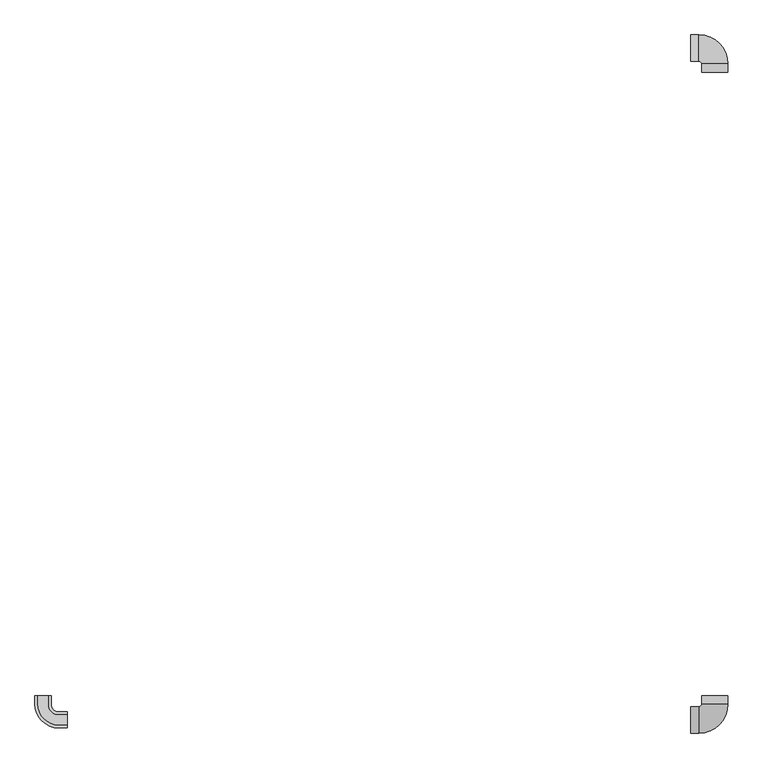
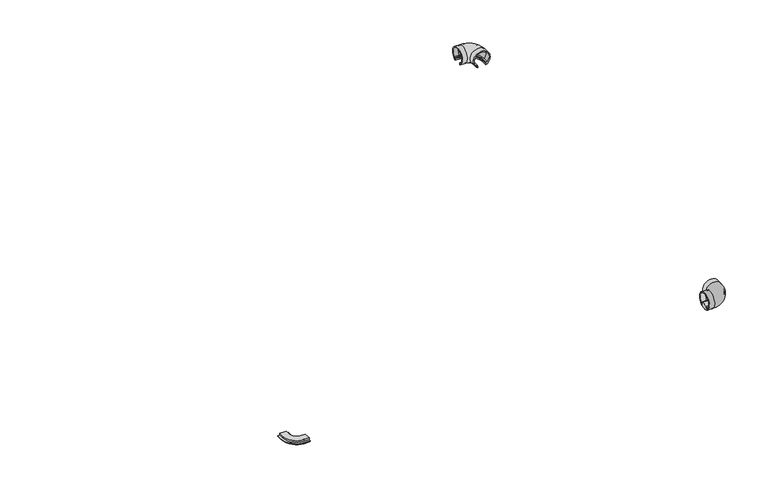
"""IFC4 building model written with IfcOpenShell, lengths in millimetres: light fixture geometry."""

from ifc_helpers import new_model, si_unit, point, frame, origin, place, context, project, spatial, polyline, circle_curve, ellipse_curve, trimmed, source, transform, mapped, element, save
from ifc_brep_helpers import plane_surface, cylinder_surface, revolved_surface, advanced_brep


def light_fixture_460ac115(model_context):
    return source(origin(), model_context, "Body", "AdvancedBrep", [
        advanced_brep(
        [(1284.2532014, 1110.5, 52.9333396), (1284.2532014, 1110.5, 57.259212), (1282.3354474, 1110.5, 57.259212), (1282.3354474, 1110.5, 55.8288843), (1280.3854474, 1110.5, 57.2440748), (1280.3854474, 1110.5, 59.244074), (1283.3354474, 1110.5, 59.244074), (1283.3354474, 1110.5, 60.744074), (1278.725222, 1110.5, 60.744074), (1313.2811808, 1110.5, 60.744074), (1308.6709554, 1110.5, 60.744074), (1308.6709554, 1110.5, 59.244074), (1311.6209554, 1110.5, 59.244074), (1311.6209554, 1110.5, 57.2440748), (1309.6709554, 1110.5, 55.8288843), (1309.6709554, 1110.5, 57.259212), (1307.7532014, 1110.5, 57.259212), (1307.7532014, 1110.5, 52.9333396), (1250.5032014, 1144.25, 52.9333396), (1250.5032014, 1167.75, 52.9333396), (1250.5032014, 1167.75, 57.259212), (1250.5032014, 1169.667754, 57.259212), (1250.5032014, 1169.667754, 55.8288843), (1250.5032014, 1171.617754, 57.2440748), (1250.5032014, 1171.617754, 59.244074), (1250.5032014, 1168.667754, 59.244074), (1250.5032014, 1168.667754, 60.744074), (1250.5032014, 1173.2779794, 60.744074), (1250.5032014, 1138.7220206, 60.744074), (1250.5032014, 1143.332246, 60.744074), (1250.5032014, 1143.332246, 59.244074), (1250.5032014, 1140.382246, 59.244074), (1250.5032014, 1140.382246, 57.2440748), (1250.5032014, 1142.332246, 55.8288843), (1250.5032014, 1142.332246, 57.259212), (1250.5032014, 1144.25, 57.259212), (1307.7532014, 1126.0, 52.9333396), (1284.2532014, 1126.0, 52.9333396), (1307.7532014, 1126.0, 57.259212), (1309.6709554, 1126.0, 57.259212), (1266.0032014, 1169.667754, 57.259212), (1266.0032014, 1167.75, 57.259212), (1309.6709554, 1126.0, 55.8288843), (1311.6209554, 1126.0, 57.2440748), (1311.6209554, 1126.0, 59.244074), (1308.6709554, 1126.0, 59.244074), (1266.0032014, 1168.667754, 59.244074), (1266.0032014, 1171.617754, 59.244074), (1308.6709554, 1126.0, 60.744074), (1313.2811808, 1126.0, 60.744074), (1266.0032014, 1173.2779794, 60.744074), (1266.0032014, 1168.667754, 60.744074), (1278.725222, 1126.0, 60.744074), (1283.3354474, 1126.0, 60.744074), (1266.0032014, 1143.332246, 60.744074), (1266.0032014, 1138.7220206, 60.744074), (1283.3354474, 1126.0, 59.244074), (1280.3854474, 1126.0, 59.244074), (1266.0032014, 1140.382246, 59.244074), (1266.0032014, 1143.332246, 59.244074), (1280.3854474, 1126.0, 57.2440748), (1282.3354474, 1126.0, 55.8288843), (1282.3354474, 1126.0, 57.259212), (1284.2532014, 1126.0, 57.259212), (1266.0032014, 1144.25, 57.259212), (1266.0032014, 1142.332246, 57.259212), (1266.0032014, 1144.25, 52.9333396), (1266.0032014, 1167.75, 52.9333396), (1266.0032014, 1169.667754, 55.8288843), (1266.0032014, 1171.617754, 57.2440748), (1266.0032014, 1140.382246, 57.2440748), (1266.0032014, 1142.332246, 55.8288843)],
        [
            (0, 1),
            (1, 2),
            (2, 3),
            (3, 4),
            (4, 5),
            (5, 6),
            (6, 7),
            (7, 8),
            (8, 9, circle_curve(frame((1296.0032014, 1110.5, 75.0), z_axis=(0.0, 1.0, 0.0), x_axis=(-1.0, 0.0, 0.0)), 22.4)),
            (9, 10),
            (10, 11),
            (11, 12),
            (12, 13),
            (13, 14),
            (14, 15),
            (15, 16),
            (16, 17),
            (17, 0, circle_curve(frame((1296.0032014, 1110.5, 75.0), z_axis=(0.0, -1.0, 0.0), x_axis=(-1.0, 0.0, 0.0)), 25.0)),
            (18, 19, circle_curve(frame((1250.5032014, 1156.0, 75.0), z_axis=(-1.0, 0.0, 0.0), x_axis=(0.0, -1.0, 0.0)), 25.0)),
            (19, 20),
            (20, 21),
            (21, 22),
            (22, 23),
            (23, 24),
            (24, 25),
            (25, 26),
            (26, 27),
            (27, 28, circle_curve(frame((1250.5032014, 1156.0, 75.0), z_axis=(1.0, 0.0, 0.0), x_axis=(0.0, -1.0, 0.0)), 22.4)),
            (28, 29),
            (29, 30),
            (30, 31),
            (31, 32),
            (32, 33),
            (33, 34),
            (34, 35),
            (35, 18),
            (17, 36),
            (36, 37, circle_curve(frame((1296.0032014, 1126.0, 75.0), z_axis=(0.0, -1.0, 0.0), x_axis=(-1.0, 0.0, 0.0)), 25.0)),
            (37, 0),
            (16, 38),
            (38, 36),
            (15, 39),
            (39, 40, circle_curve(frame((1266.0032014, 1126.0, 57.259212), z_axis=(0.0, 0.0, 1.0), x_axis=(1.0, 0.0, 0.0)), 43.667754)),
            (40, 21),
            (20, 41),
            (41, 38, circle_curve(frame((1266.0032014, 1126.0, 57.259212), z_axis=(0.0, 0.0, -1.0), x_axis=(1.0, 0.0, 0.0)), 41.75)),
            (14, 42),
            (42, 39),
            (13, 43),
            (43, 42),
            (12, 44),
            (44, 43),
            (11, 45),
            (45, 46, circle_curve(frame((1266.0032014, 1126.0, 59.244074), z_axis=(0.0, 0.0, 1.0), x_axis=(1.0, 0.0, 0.0)), 42.667754)),
            (46, 25),
            (24, 47),
            (47, 44, circle_curve(frame((1266.0032014, 1126.0, 59.244074), z_axis=(0.0, 0.0, -1.0), x_axis=(1.0, 0.0, 0.0)), 45.617754)),
            (10, 48),
            (48, 45),
            (9, 49),
            (49, 50, circle_curve(frame((1266.0032014, 1126.0, 60.744074), z_axis=(0.0, 0.0, 1.0), x_axis=(1.0, 0.0, 0.0)), 47.2779794)),
            (50, 27),
            (26, 51),
            (51, 48, circle_curve(frame((1266.0032014, 1126.0, 60.744074), z_axis=(0.0, 0.0, -1.0), x_axis=(1.0, 0.0, 0.0)), 42.667754)),
            (8, 52),
            (52, 49, circle_curve(frame((1296.0032014, 1126.0, 75.0), z_axis=(0.0, 1.0, 0.0), x_axis=(-1.0, 0.0, 0.0)), 22.4)),
            (7, 53),
            (53, 54, circle_curve(frame((1266.0032014, 1126.0, 60.744074), z_axis=(0.0, 0.0, 1.0), x_axis=(1.0, 0.0, 0.0)), 17.332246)),
            (54, 29),
            (28, 55),
            (55, 52, circle_curve(frame((1266.0032014, 1126.0, 60.744074), z_axis=(0.0, 0.0, -1.0), x_axis=(1.0, 0.0, 0.0)), 12.7220206)),
            (6, 56),
            (56, 53),
            (5, 57),
            (57, 58, circle_curve(frame((1266.0032014, 1126.0, 59.244074), z_axis=(0.0, 0.0, 1.0), x_axis=(1.0, 0.0, 0.0)), 14.382246)),
            (58, 31),
            (30, 59),
            (59, 56, circle_curve(frame((1266.0032014, 1126.0, 59.244074), z_axis=(0.0, 0.0, -1.0), x_axis=(1.0, 0.0, 0.0)), 17.332246)),
            (4, 60),
            (60, 57),
            (3, 61),
            (61, 60),
            (2, 62),
            (62, 61),
            (1, 63),
            (63, 64, circle_curve(frame((1266.0032014, 1126.0, 57.259212), z_axis=(0.0, 0.0, 1.0), x_axis=(1.0, 0.0, 0.0)), 18.25)),
            (64, 35),
            (34, 65),
            (65, 62, circle_curve(frame((1266.0032014, 1126.0, 57.259212), z_axis=(0.0, 0.0, -1.0), x_axis=(1.0, 0.0, 0.0)), 16.332246)),
            (37, 63),
            (66, 37, circle_curve(frame((1266.0032014, 1126.0, 52.9333396), z_axis=(0.0, 0.0, -1.0), x_axis=(1.0, 0.0, 0.0)), 18.25)),
            (36, 67, circle_curve(frame((1266.0032014, 1126.0, 52.9333396), z_axis=(0.0, 0.0, 1.0), x_axis=(1.0, 0.0, 0.0)), 41.75)),
            (67, 66, circle_curve(frame((1266.0032014, 1156.0, 75.0), z_axis=(1.0, 0.0, 0.0), x_axis=(0.0, -1.0, 0.0)), 25.0)),
            (41, 67),
            (42, 68, circle_curve(frame((1266.0032014, 1126.0, 55.8288843), z_axis=(0.0, 0.0, 1.0), x_axis=(1.0, 0.0, 0.0)), 43.667754)),
            (68, 40),
            (43, 69, circle_curve(frame((1266.0032014, 1126.0, 57.2440748), z_axis=(0.0, 0.0, 1.0), x_axis=(1.0, 0.0, 0.0)), 45.617754)),
            (69, 68),
            (47, 69),
            (51, 46),
            (55, 50, circle_curve(frame((1266.0032014, 1156.0, 75.0), z_axis=(-1.0, 0.0, 0.0), x_axis=(0.0, -1.0, 0.0)), 22.4)),
            (59, 54),
            (60, 70, circle_curve(frame((1266.0032014, 1126.0, 57.2440748), z_axis=(0.0, 0.0, 1.0), x_axis=(1.0, 0.0, 0.0)), 14.382246)),
            (70, 58),
            (61, 71, circle_curve(frame((1266.0032014, 1126.0, 55.8288843), z_axis=(0.0, 0.0, 1.0), x_axis=(1.0, 0.0, 0.0)), 16.332246)),
            (71, 70),
            (65, 71),
            (66, 64),
            (67, 19),
            (18, 66),
            (68, 22),
            (69, 23),
            (70, 32),
            (71, 33),
        ],
        [
            plane_surface(frame((1296.0032014, 1110.5, 50.0), z_axis=(0.0, -1.0, 0.0), x_axis=(0.0, 0.0, 1.0))),
            plane_surface(frame((1250.5032014, 1156.0, 50.0), z_axis=(-1.0, 0.0, 0.0), x_axis=(0.0, 0.0, 1.0))),
            cylinder_surface(frame((1296.0032014, 1110.5, 75.0), z_axis=(0.0, -1.0, 0.0), x_axis=(-1.0, 0.0, 0.0)), 25.0),
            plane_surface(frame((1307.7532014, 1110.5, 57.259212), z_axis=(-1.0, 0.0, 0.0), x_axis=(0.0, 1.0, 0.0))),
            plane_surface(frame((1309.6709554, 1110.5, 57.259212), z_axis=(0.0, 0.0, 1.0), x_axis=(0.0, 1.0, 0.0))),
            plane_surface(frame((1309.6709554, 1110.5, 55.8288843), z_axis=(1.0, 0.0, 0.0), x_axis=(0.0, 1.0, 0.0))),
            plane_surface(frame((1311.6209554, 1110.5, 57.2440748), z_axis=(-0.5873593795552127, 0.0, 0.809326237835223), x_axis=(0.0, 1.0, 0.0))),
            plane_surface(frame((1311.6209554, 1110.5, 59.244074), z_axis=(-1.0, 0.0, 0.0), x_axis=(0.0, 1.0, 0.0))),
            plane_surface(frame((1308.6709554, 1110.5, 59.244074), z_axis=(0.0, 0.0, -1.0), x_axis=(0.0, 1.0, 0.0))),
            plane_surface(frame((1308.6709554, 1110.5, 60.744074), z_axis=(-1.0, 0.0, 0.0), x_axis=(0.0, 1.0, 0.0))),
            plane_surface(frame((1313.2811808, 1110.5, 60.744074), z_axis=(0.0, 0.0, 1.0), x_axis=(0.0, 1.0, 0.0))),
            revolved_surface(polyline([(1273.6032014, 1126.0, 75.0), (1273.6032014, 1110.5, 75.0)]), (1296.0032014, 1110.5, 75.0), (0.0, 1.0, 0.0)),
            plane_surface(frame((1283.3354474, 1110.5, 60.744074), z_axis=(0.0, 0.0, 1.0), x_axis=(0.0, 1.0, 0.0))),
            plane_surface(frame((1283.3354474, 1110.5, 59.244074), z_axis=(1.0, 0.0, 0.0), x_axis=(0.0, 1.0, 0.0))),
            plane_surface(frame((1280.3854474, 1110.5, 59.244074), z_axis=(0.0, 0.0, -1.0), x_axis=(0.0, 1.0, 0.0))),
            plane_surface(frame((1280.3854474, 1110.5, 57.2440748), z_axis=(1.0, 0.0, 0.0), x_axis=(0.0, 1.0, 0.0))),
            plane_surface(frame((1282.3354474, 1110.5, 55.8288843), z_axis=(0.5873593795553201, 0.0, 0.8093262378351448), x_axis=(0.0, 1.0, 0.0))),
            plane_surface(frame((1282.3354474, 1110.5, 57.259212), z_axis=(-1.0, 0.0, 0.0), x_axis=(0.0, 1.0, 0.0))),
            plane_surface(frame((1284.2532014, 1110.5, 57.259212), z_axis=(0.0, 0.0, 1.0), x_axis=(0.0, 1.0, 0.0))),
            plane_surface(frame((1284.2532014, 1110.5, 52.9333396), z_axis=(1.0, 0.0, 0.0), x_axis=(0.0, 1.0, 0.0))),
            revolved_surface(trimmed(ellipse_curve(frame((1296.0032014, 1126.0, 75.0), z_axis=(0.0, -1.0, 0.0), x_axis=(-1.0, 0.0, 0.0)), 25.0, 25.0), [point((1307.7532014, 1126.0, 52.9333396))], [point((1284.2532014, 1126.0, 52.9333396))], True, "CARTESIAN"), (1266.0032014, 1126.0, 50.0), (0.0, 0.0, 1.0)),
            revolved_surface(polyline([(1307.7532014, 1126.0, 57.259212), (1307.7532014, 1126.0, 52.9333396)]), (1266.0032014, 1126.0, 50.0), (0.0, 0.0, 1.0)),
            cylinder_surface(frame((1266.0032014, 1126.0, 50.0), z_axis=(0.0, 0.0, 1.0), x_axis=(1.0, 0.0, 0.0)), 43.667754),
            revolved_surface(polyline([(1311.6209554, 1126.0, 57.2440748), (1309.6709554, 1126.0, 55.8288843)]), (1266.0032014, 1126.0, 50.0), (0.0, 0.0, 1.0)),
            revolved_surface(polyline([(1311.6209554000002, 1126.0, 59.244074), (1311.6209554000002, 1126.0, 57.2440748)]), (1266.0032014, 1126.0, 50.0), (0.0, 0.0, 1.0)),
            revolved_surface(polyline([(1308.6709554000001, 1126.0, 60.744074), (1308.6709554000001, 1126.0, 59.244074)]), (1266.0032014, 1126.0, 50.0), (0.0, 0.0, 1.0)),
            revolved_surface(trimmed(ellipse_curve(frame((1296.0032014, 1126.0, 75.0), z_axis=(0.0, 1.0, 0.0), x_axis=(-1.0, 0.0, 0.0)), 22.4, 22.4), [point((1278.725222, 1126.0, 60.744074))], [point((1313.2811808, 1126.0, 60.744074))], True, "CARTESIAN"), (1266.0032014, 1126.0, 50.0), (0.0, 0.0, 1.0)),
            cylinder_surface(frame((1266.0032014, 1126.0, 50.0), z_axis=(0.0, 0.0, 1.0), x_axis=(1.0, 0.0, 0.0)), 17.332246),
            cylinder_surface(frame((1266.0032014, 1126.0, 50.0), z_axis=(0.0, 0.0, 1.0), x_axis=(1.0, 0.0, 0.0)), 14.382246),
            revolved_surface(polyline([(1282.3354474, 1126.0, 55.8288843), (1280.3854474, 1126.0, 57.2440748)]), (1266.0032014, 1126.0, 50.0), (0.0, 0.0, 1.0)),
            revolved_surface(polyline([(1282.3354474, 1126.0, 57.259212), (1282.3354474, 1126.0, 55.8288843)]), (1266.0032014, 1126.0, 50.0), (0.0, 0.0, 1.0)),
            cylinder_surface(frame((1266.0032014, 1126.0, 50.0), z_axis=(0.0, 0.0, 1.0), x_axis=(1.0, 0.0, 0.0)), 18.25),
            cylinder_surface(frame((1266.0032014, 1156.0, 75.0), z_axis=(1.0, 0.0, 0.0), x_axis=(0.0, -1.0, 0.0)), 25.0),
            plane_surface(frame((1266.0032014, 1167.75, 57.259212), z_axis=(0.0, -1.0, 0.0), x_axis=(-1.0, 0.0, 0.0))),
            plane_surface(frame((1266.0032014, 1169.667754, 55.8288843), z_axis=(0.0, 1.0, 0.0), x_axis=(-1.0, 0.0, 0.0))),
            plane_surface(frame((1266.0032014, 1171.617754, 57.2440748), z_axis=(0.0, -0.5873593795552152, 0.8093262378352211), x_axis=(-1.0, 0.0, 0.0))),
            plane_surface(frame((1266.0032014, 1171.617754, 59.244074), z_axis=(0.0, -1.0, 0.0), x_axis=(-1.0, 0.0, 0.0))),
            plane_surface(frame((1266.0032014, 1168.667754, 60.744074), z_axis=(0.0, -1.0, 0.0), x_axis=(-1.0, 0.0, 0.0))),
            revolved_surface(polyline([(1250.5032014, 1133.6, 75.0), (1266.0032014, 1133.6, 75.0)]), (1266.0032014, 1156.0, 75.0), (-1.0, 0.0, 0.0)),
            plane_surface(frame((1266.0032014, 1143.332246, 59.244074), z_axis=(0.0, 1.0, 0.0), x_axis=(-1.0, 0.0, 0.0))),
            plane_surface(frame((1266.0032014, 1140.382246, 57.2440748), z_axis=(0.0, 1.0, 0.0), x_axis=(-1.0, 0.0, 0.0))),
            plane_surface(frame((1266.0032014, 1142.332246, 55.8288843), z_axis=(0.0, 0.5873593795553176, 0.8093262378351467), x_axis=(-1.0, 0.0, 0.0))),
            plane_surface(frame((1266.0032014, 1142.332246, 57.259212), z_axis=(0.0, -1.0, 0.0), x_axis=(-1.0, 0.0, 0.0))),
            plane_surface(frame((1266.0032014, 1144.25, 52.9333396), z_axis=(0.0, 1.0, 0.0), x_axis=(-1.0, 0.0, 0.0))),
        ],
        [
            (0, [[1, 2, 3, 4, 5, 6, 7, 8, 9, 10, 11, 12, 13, 14, 15, 16, 17, 18]]),
            (1, [[19, 20, 21, 22, 23, 24, 25, 26, 27, 28, 29, 30, 31, 32, 33, 34, 35, 36]]),
            (2, [[-18, 37, 38, 39]]),
            (3, [[-17, 40, 41, -37]]),
            (4, [[-16, 42, 43, 44, -21, 45, 46, -40]]),
            (5, [[-15, 47, 48, -42]]),
            (6, [[-14, 49, 50, -47]]),
            (7, [[-13, 51, 52, -49]]),
            (8, [[-12, 53, 54, 55, -25, 56, 57, -51]]),
            (9, [[-11, 58, 59, -53]]),
            (10, [[-10, 60, 61, 62, -27, 63, 64, -58]]),
            (11, [[-9, 65, 66, -60]]),
            (12, [[-8, 67, 68, 69, -29, 70, 71, -65]]),
            (13, [[-7, 72, 73, -67]]),
            (14, [[-6, 74, 75, 76, -31, 77, 78, -72]]),
            (15, [[-5, 79, 80, -74]]),
            (16, [[-4, 81, 82, -79]]),
            (17, [[-3, 83, 84, -81]]),
            (18, [[-2, 85, 86, 87, -35, 88, 89, -83]]),
            (19, [[-1, -39, 90, -85]]),
            (20, [[91, -38, 92, 93]]),
            (21, [[-92, -41, -46, 94]]),
            (22, [[-43, -48, 95, 96]]),
            (23, [[-95, -50, 97, 98]]),
            (24, [[-97, -52, -57, 99]]),
            (25, [[-54, -59, -64, 100]]),
            (26, [[-61, -66, -71, 101]]),
            (27, [[-68, -73, -78, 102]]),
            (28, [[-75, -80, 103, 104]]),
            (29, [[-103, -82, 105, 106]]),
            (30, [[-105, -84, -89, 107]]),
            (31, [[-86, -90, -91, 108]]),
            (32, [[-93, 109, -19, 110]]),
            (33, [[-94, -45, -20, -109]]),
            (34, [[-96, 111, -22, -44]]),
            (35, [[-98, 112, -23, -111]]),
            (36, [[-99, -56, -24, -112]]),
            (37, [[-100, -63, -26, -55]]),
            (38, [[-101, -70, -28, -62]]),
            (39, [[-102, -77, -30, -69]]),
            (40, [[-104, 113, -32, -76]]),
            (41, [[-106, 114, -33, -113]]),
            (42, [[-107, -88, -34, -114]]),
            (43, [[-108, -110, -36, -87]]),
        ],
    ),
        advanced_brep(
        [(1250.5032014, -126.75, 52.9333396), (1250.5032014, -126.75, 57.259212), (1250.5032014, -130.304087, 57.259212), (1250.5032014, -130.304087, 58.785971), (1250.5032014, -124.5062575, 58.785971), (1250.5032014, -124.5062575, 64.4273482), (1250.5032014, -105.4937425, 64.4273482), (1250.5032014, -105.4937425, 58.785971), (1250.5032014, -99.695913, 58.785971), (1250.5032014, -99.695913, 57.259212), (1250.5032014, -103.25, 57.259212), (1250.5032014, -103.25, 52.9333396), (1307.7532014, -69.5, 52.9333396), (1284.2532014, -69.5, 52.9333396), (1284.2532014, -69.5, 57.259212), (1280.6991144, -69.5, 57.259212), (1280.6991144, -69.5, 58.785971), (1286.4969439, -69.5, 58.785971), (1286.4969439, -69.5, 64.4273482), (1305.5094589, -69.5, 64.4273482), (1305.5094589, -69.5, 58.785971), (1311.3072884, -69.5, 58.785971), (1311.3072884, -69.5, 57.259212), (1307.7532014, -69.5, 57.259212), (1266.0032014, -103.25, 52.9333396), (1266.0032014, -126.75, 52.9333396), (1266.0032014, -103.25, 57.259212), (1266.0032014, -99.695913, 57.259212), (1280.6991144, -85.0, 57.259212), (1284.2532014, -85.0, 57.259212), (1266.0032014, -99.695913, 58.785971), (1266.0032014, -105.4937425, 58.785971), (1286.4969439, -85.0, 58.785971), (1280.6991144, -85.0, 58.785971), (1266.0032014, -105.4937425, 64.4273482), (1266.0032014, -124.5062575, 64.4273482), (1305.5094589, -85.0, 64.4273482), (1286.4969439, -85.0, 64.4273482), (1266.0032014, -124.5062575, 58.785971), (1266.0032014, -130.304087, 58.785971), (1311.3072884, -85.0, 58.785971), (1305.5094589, -85.0, 58.785971), (1266.0032014, -130.304087, 57.259212), (1266.0032014, -126.75, 57.259212), (1307.7532014, -85.0, 57.259212), (1311.3072884, -85.0, 57.259212), (1307.7532014, -85.0, 52.9333396), (1284.2532014, -85.0, 52.9333396)],
        [
            (0, 1),
            (1, 2),
            (2, 3),
            (3, 4),
            (4, 5),
            (5, 6),
            (6, 7),
            (7, 8),
            (8, 9),
            (9, 10),
            (10, 11),
            (11, 0, circle_curve(frame((1250.5032014, -115.0, 75.0), z_axis=(-1.0, 0.0, 0.0), x_axis=(0.0, 1.0, 0.0)), 25.0)),
            (12, 13, circle_curve(frame((1296.0032014, -69.5, 75.0), z_axis=(0.0, 1.0, 0.0), x_axis=(-1.0, 0.0, 0.0)), 25.0)),
            (13, 14),
            (14, 15),
            (15, 16),
            (16, 17),
            (17, 18),
            (18, 19),
            (19, 20),
            (20, 21),
            (21, 22),
            (22, 23),
            (23, 12),
            (11, 24),
            (24, 25, circle_curve(frame((1266.0032014, -115.0, 75.0), z_axis=(-1.0, 0.0, 0.0), x_axis=(0.0, 1.0, 0.0)), 25.0)),
            (25, 0),
            (10, 26),
            (26, 24),
            (9, 27),
            (27, 28, circle_curve(frame((1266.0032014, -85.0, 57.259212), z_axis=(0.0, 0.0, 1.0), x_axis=(0.0, -1.0, 0.0)), 14.695913)),
            (28, 15),
            (14, 29),
            (29, 26, circle_curve(frame((1266.0032014, -85.0, 57.259212), z_axis=(0.0, 0.0, -1.0), x_axis=(0.0, -1.0, 0.0)), 18.25)),
            (8, 30),
            (30, 27),
            (7, 31),
            (31, 32, circle_curve(frame((1266.0032014, -85.0, 58.785971), z_axis=(0.0, 0.0, 1.0), x_axis=(0.0, -1.0, 0.0)), 20.4937425)),
            (32, 17),
            (16, 33),
            (33, 30, circle_curve(frame((1266.0032014, -85.0, 58.785971), z_axis=(0.0, 0.0, -1.0), x_axis=(0.0, -1.0, 0.0)), 14.695913)),
            (6, 34),
            (34, 31),
            (5, 35),
            (35, 36, circle_curve(frame((1266.0032014, -85.0, 64.4273482), z_axis=(0.0, 0.0, 1.0), x_axis=(0.0, -1.0, 0.0)), 39.5062575)),
            (36, 19),
            (18, 37),
            (37, 34, circle_curve(frame((1266.0032014, -85.0, 64.4273482), z_axis=(0.0, 0.0, -1.0), x_axis=(0.0, -1.0, 0.0)), 20.4937425)),
            (4, 38),
            (38, 35),
            (3, 39),
            (39, 40, circle_curve(frame((1266.0032014, -85.0, 58.785971), z_axis=(0.0, 0.0, 1.0), x_axis=(0.0, -1.0, 0.0)), 45.304087)),
            (40, 21),
            (20, 41),
            (41, 38, circle_curve(frame((1266.0032014, -85.0, 58.785971), z_axis=(0.0, 0.0, -1.0), x_axis=(0.0, -1.0, 0.0)), 39.5062575)),
            (2, 42),
            (42, 39),
            (1, 43),
            (43, 44, circle_curve(frame((1266.0032014, -85.0, 57.259212), z_axis=(0.0, 0.0, 1.0), x_axis=(0.0, -1.0, 0.0)), 41.75)),
            (44, 23),
            (22, 45),
            (45, 42, circle_curve(frame((1266.0032014, -85.0, 57.259212), z_axis=(0.0, 0.0, -1.0), x_axis=(0.0, -1.0, 0.0)), 45.304087)),
            (25, 43),
            (46, 25, circle_curve(frame((1266.0032014, -85.0, 52.9333396), z_axis=(0.0, 0.0, -1.0), x_axis=(0.0, -1.0, 0.0)), 41.75)),
            (24, 47, circle_curve(frame((1266.0032014, -85.0, 52.9333396), z_axis=(0.0, 0.0, 1.0), x_axis=(0.0, -1.0, 0.0)), 18.25)),
            (47, 46, circle_curve(frame((1296.0032014, -85.0, 75.0), z_axis=(0.0, -1.0, 0.0), x_axis=(-1.0, 0.0, 0.0)), 25.0)),
            (29, 47),
            (33, 28),
            (37, 32),
            (41, 36),
            (45, 40),
            (46, 44),
            (47, 13),
            (12, 46),
        ],
        [
            plane_surface(frame((1250.5032014, -115.0, 50.0), z_axis=(-1.0, 0.0, 0.0), x_axis=(0.0, 0.0, 1.0))),
            plane_surface(frame((1296.0032014, -69.5, 50.0), z_axis=(0.0, 1.0, 0.0), x_axis=(0.0, 0.0, 1.0))),
            cylinder_surface(frame((1250.5032014, -115.0, 75.0), z_axis=(-1.0, 0.0, 0.0), x_axis=(0.0, 1.0, 0.0)), 25.0),
            plane_surface(frame((1250.5032014, -103.25, 57.259212), z_axis=(0.0, 1.0, 0.0), x_axis=(1.0, 0.0, 0.0))),
            plane_surface(frame((1250.5032014, -99.695913, 57.259212), z_axis=(0.0, 0.0, -1.0), x_axis=(1.0, 0.0, 0.0))),
            plane_surface(frame((1250.5032014, -99.695913, 58.785971), z_axis=(0.0, 1.0, 0.0), x_axis=(1.0, 0.0, 0.0))),
            plane_surface(frame((1250.5032014, -105.4937425, 58.785971), z_axis=(0.0, 0.0, 1.0), x_axis=(1.0, 0.0, 0.0))),
            plane_surface(frame((1250.5032014, -105.4937425, 64.4273482), z_axis=(0.0, 1.0, 0.0), x_axis=(1.0, 0.0, 0.0))),
            plane_surface(frame((1250.5032014, -124.5062575, 64.4273482), z_axis=(0.0, 0.0, 1.0), x_axis=(1.0, 0.0, 0.0))),
            plane_surface(frame((1250.5032014, -124.5062575, 58.785971), z_axis=(0.0, -1.0, 0.0), x_axis=(1.0, 0.0, 0.0))),
            plane_surface(frame((1250.5032014, -130.304087, 58.785971), z_axis=(0.0, 0.0, 1.0), x_axis=(1.0, 0.0, 0.0))),
            plane_surface(frame((1250.5032014, -130.304087, 57.259212), z_axis=(0.0, -1.0, 0.0), x_axis=(1.0, 0.0, 0.0))),
            plane_surface(frame((1250.5032014, -126.75, 57.259212), z_axis=(0.0, 0.0, -1.0), x_axis=(1.0, 0.0, 0.0))),
            plane_surface(frame((1250.5032014, -126.75, 52.9333396), z_axis=(0.0, -1.0, 0.0), x_axis=(1.0, 0.0, 0.0))),
            revolved_surface(trimmed(ellipse_curve(frame((1266.0032014, -115.0, 75.0), z_axis=(-1.0, 0.0, 0.0), x_axis=(0.0, 1.0, 0.0)), 25.0, 25.0), [point((1266.0032014, -103.25, 52.9333396))], [point((1266.0032014, -126.75, 52.9333396))], True, "CARTESIAN"), (1266.0032014, -85.0, 50.0), (0.0, 0.0, 1.0)),
            revolved_surface(polyline([(1266.0032014, -103.25, 57.259212), (1266.0032014, -103.25, 52.9333396)]), (1266.0032014, -85.0, 50.0), (0.0, 0.0, 1.0)),
            revolved_surface(polyline([(1266.0032014, -99.695913, 58.785971), (1266.0032014, -99.695913, 57.259212)]), (1266.0032014, -85.0, 50.0), (0.0, 0.0, 1.0)),
            revolved_surface(polyline([(1266.0032014, -105.4937425, 64.4273482), (1266.0032014, -105.4937425, 58.785971)]), (1266.0032014, -85.0, 50.0), (0.0, 0.0, 1.0)),
            cylinder_surface(frame((1266.0032014, -85.0, 50.0), z_axis=(0.0, 0.0, 1.0), x_axis=(0.0, -1.0, 0.0)), 39.5062575),
            cylinder_surface(frame((1266.0032014, -85.0, 50.0), z_axis=(0.0, 0.0, 1.0), x_axis=(0.0, -1.0, 0.0)), 45.304087),
            cylinder_surface(frame((1266.0032014, -85.0, 50.0), z_axis=(0.0, 0.0, 1.0), x_axis=(0.0, -1.0, 0.0)), 41.75),
            cylinder_surface(frame((1296.0032014, -85.0, 75.0), z_axis=(0.0, -1.0, 0.0), x_axis=(-1.0, 0.0, 0.0)), 25.0),
            plane_surface(frame((1284.2532014, -85.0, 57.259212), z_axis=(-1.0, 0.0, 0.0), x_axis=(0.0, 1.0, 0.0))),
            plane_surface(frame((1280.6991144, -85.0, 58.785971), z_axis=(-1.0, 0.0, 0.0), x_axis=(0.0, 1.0, 0.0))),
            plane_surface(frame((1286.4969439, -85.0, 64.4273482), z_axis=(-1.0, 0.0, 0.0), x_axis=(0.0, 1.0, 0.0))),
            plane_surface(frame((1305.5094589, -85.0, 58.785971), z_axis=(1.0, 0.0, 0.0), x_axis=(0.0, 1.0, 0.0))),
            plane_surface(frame((1311.3072884, -85.0, 57.259212), z_axis=(1.0, 0.0, 0.0), x_axis=(0.0, 1.0, 0.0))),
            plane_surface(frame((1307.7532014, -85.0, 52.9333396), z_axis=(1.0, 0.0, 0.0), x_axis=(0.0, 1.0, 0.0))),
        ],
        [
            (0, [[1, 2, 3, 4, 5, 6, 7, 8, 9, 10, 11, 12]]),
            (1, [[13, 14, 15, 16, 17, 18, 19, 20, 21, 22, 23, 24]]),
            (2, [[-12, 25, 26, 27]]),
            (3, [[-11, 28, 29, -25]]),
            (4, [[-10, 30, 31, 32, -15, 33, 34, -28]]),
            (5, [[-9, 35, 36, -30]]),
            (6, [[-8, 37, 38, 39, -17, 40, 41, -35]]),
            (7, [[-7, 42, 43, -37]]),
            (8, [[-6, 44, 45, 46, -19, 47, 48, -42]]),
            (9, [[-5, 49, 50, -44]]),
            (10, [[-4, 51, 52, 53, -21, 54, 55, -49]]),
            (11, [[-3, 56, 57, -51]]),
            (12, [[-2, 58, 59, 60, -23, 61, 62, -56]]),
            (13, [[-1, -27, 63, -58]]),
            (14, [[64, -26, 65, 66]]),
            (15, [[-65, -29, -34, 67]]),
            (16, [[-31, -36, -41, 68]]),
            (17, [[-38, -43, -48, 69]]),
            (18, [[-45, -50, -55, 70]]),
            (19, [[-52, -57, -62, 71]]),
            (20, [[-59, -63, -64, 72]]),
            (21, [[-66, 73, -13, 74]]),
            (22, [[-67, -33, -14, -73]]),
            (23, [[-68, -40, -16, -32]]),
            (24, [[-69, -47, -18, -39]]),
            (25, [[-70, -54, -20, -46]]),
            (26, [[-71, -61, -22, -53]]),
            (27, [[-72, -74, -24, -60]]),
        ],
    ),
        advanced_brep(
        [(1250.5032014, -103.25, 52.9333396), (1250.5032014, -103.25, 57.259212), (1250.5032014, -101.332246, 57.259212), (1250.5032014, -101.332246, 55.8288843), (1250.5032014, -99.382246, 57.2440748), (1250.5032014, -99.382246, 59.244074), (1250.5032014, -102.332246, 59.244074), (1250.5032014, -102.332246, 60.744074), (1250.5032014, -97.7220206, 60.744074), (1250.5032014, -132.2779794, 60.744074), (1250.5032014, -127.667754, 60.744074), (1250.5032014, -127.667754, 59.244074), (1250.5032014, -130.617754, 59.244074), (1250.5032014, -130.617754, 57.2440748), (1250.5032014, -128.667754, 55.8288843), (1250.5032014, -128.667754, 57.259212), (1250.5032014, -126.75, 57.259212), (1250.5032014, -126.75, 52.9333396), (1284.2532014, -69.5, 52.9333396), (1307.7532014, -69.5, 52.9333396), (1307.7532014, -69.5, 57.259212), (1309.6709554, -69.5, 57.259212), (1309.6709554, -69.5, 55.8288843), (1311.6209554, -69.5, 57.2440748), (1311.6209554, -69.5, 59.244074), (1308.6709554, -69.5, 59.244074), (1308.6709554, -69.5, 60.744074), (1313.2811808, -69.5, 60.744074), (1278.725222, -69.5, 60.744074), (1283.3354474, -69.5, 60.744074), (1283.3354474, -69.5, 59.244074), (1280.3854474, -69.5, 59.244074), (1280.3854474, -69.5, 57.2440748), (1282.3354474, -69.5, 55.8288843), (1282.3354474, -69.5, 57.259212), (1284.2532014, -69.5, 57.259212), (1266.0032014, -126.75, 52.9333396), (1266.0032014, -103.25, 52.9333396), (1266.0032014, -126.75, 57.259212), (1266.0032014, -128.667754, 57.259212), (1309.6709554, -85.0, 57.259212), (1307.7532014, -85.0, 57.259212), (1266.0032014, -128.667754, 55.8288843), (1266.0032014, -130.617754, 57.2440748), (1266.0032014, -130.617754, 59.244074), (1266.0032014, -127.667754, 59.244074), (1308.6709554, -85.0, 59.244074), (1311.6209554, -85.0, 59.244074), (1266.0032014, -127.667754, 60.744074), (1266.0032014, -132.2779794, 60.744074), (1313.2811808, -85.0, 60.744074), (1308.6709554, -85.0, 60.744074), (1266.0032014, -97.7220206, 60.744074), (1266.0032014, -102.332246, 60.744074), (1283.3354474, -85.0, 60.744074), (1278.725222, -85.0, 60.744074), (1266.0032014, -102.332246, 59.244074), (1266.0032014, -99.382246, 59.244074), (1280.3854474, -85.0, 59.244074), (1283.3354474, -85.0, 59.244074), (1266.0032014, -99.382246, 57.2440748), (1266.0032014, -101.332246, 55.8288843), (1266.0032014, -101.332246, 57.259212), (1266.0032014, -103.25, 57.259212), (1284.2532014, -85.0, 57.259212), (1282.3354474, -85.0, 57.259212), (1284.2532014, -85.0, 52.9333396), (1307.7532014, -85.0, 52.9333396), (1309.6709554, -85.0, 55.8288843), (1311.6209554, -85.0, 57.2440748), (1280.3854474, -85.0, 57.2440748), (1282.3354474, -85.0, 55.8288843)],
        [
            (0, 1),
            (1, 2),
            (2, 3),
            (3, 4),
            (4, 5),
            (5, 6),
            (6, 7),
            (7, 8),
            (8, 9, circle_curve(frame((1250.5032014, -115.0, 75.0), z_axis=(1.0, 0.0, 0.0), x_axis=(0.0, 1.0, 0.0)), 22.4)),
            (9, 10),
            (10, 11),
            (11, 12),
            (12, 13),
            (13, 14),
            (14, 15),
            (15, 16),
            (16, 17),
            (17, 0, circle_curve(frame((1250.5032014, -115.0, 75.0), z_axis=(-1.0, 0.0, 0.0), x_axis=(0.0, 1.0, 0.0)), 25.0)),
            (18, 19, circle_curve(frame((1296.0032014, -69.5, 75.0), z_axis=(0.0, 1.0, 0.0), x_axis=(-1.0, 0.0, 0.0)), 25.0)),
            (19, 20),
            (20, 21),
            (21, 22),
            (22, 23),
            (23, 24),
            (24, 25),
            (25, 26),
            (26, 27),
            (27, 28, circle_curve(frame((1296.0032014, -69.5, 75.0), z_axis=(0.0, -1.0, 0.0), x_axis=(-1.0, 0.0, 0.0)), 22.4)),
            (28, 29),
            (29, 30),
            (30, 31),
            (31, 32),
            (32, 33),
            (33, 34),
            (34, 35),
            (35, 18),
            (17, 36),
            (36, 37, circle_curve(frame((1266.0032014, -115.0, 75.0), z_axis=(-1.0, 0.0, 0.0), x_axis=(0.0, 1.0, 0.0)), 25.0)),
            (37, 0),
            (16, 38),
            (38, 36),
            (15, 39),
            (39, 40, circle_curve(frame((1266.0032014, -85.0, 57.259212), z_axis=(0.0, 0.0, 1.0), x_axis=(0.0, -1.0, 0.0)), 43.667754)),
            (40, 21),
            (20, 41),
            (41, 38, circle_curve(frame((1266.0032014, -85.0, 57.259212), z_axis=(0.0, 0.0, -1.0), x_axis=(0.0, -1.0, 0.0)), 41.75)),
            (14, 42),
            (42, 39),
            (13, 43),
            (43, 42),
            (12, 44),
            (44, 43),
            (11, 45),
            (45, 46, circle_curve(frame((1266.0032014, -85.0, 59.244074), z_axis=(0.0, 0.0, 1.0), x_axis=(0.0, -1.0, 0.0)), 42.667754)),
            (46, 25),
            (24, 47),
            (47, 44, circle_curve(frame((1266.0032014, -85.0, 59.244074), z_axis=(0.0, 0.0, -1.0), x_axis=(0.0, -1.0, 0.0)), 45.617754)),
            (10, 48),
            (48, 45),
            (9, 49),
            (49, 50, circle_curve(frame((1266.0032014, -85.0, 60.744074), z_axis=(0.0, 0.0, 1.0), x_axis=(0.0, -1.0, 0.0)), 47.2779794)),
            (50, 27),
            (26, 51),
            (51, 48, circle_curve(frame((1266.0032014, -85.0, 60.744074), z_axis=(0.0, 0.0, -1.0), x_axis=(0.0, -1.0, 0.0)), 42.667754)),
            (8, 52),
            (52, 49, circle_curve(frame((1266.0032014, -115.0, 75.0), z_axis=(1.0, 0.0, 0.0), x_axis=(0.0, 1.0, 0.0)), 22.4)),
            (7, 53),
            (53, 54, circle_curve(frame((1266.0032014, -85.0, 60.744074), z_axis=(0.0, 0.0, 1.0), x_axis=(0.0, -1.0, 0.0)), 17.332246)),
            (54, 29),
            (28, 55),
            (55, 52, circle_curve(frame((1266.0032014, -85.0, 60.744074), z_axis=(0.0, 0.0, -1.0), x_axis=(0.0, -1.0, 0.0)), 12.7220206)),
            (6, 56),
            (56, 53),
            (5, 57),
            (57, 58, circle_curve(frame((1266.0032014, -85.0, 59.244074), z_axis=(0.0, 0.0, 1.0), x_axis=(0.0, -1.0, 0.0)), 14.382246)),
            (58, 31),
            (30, 59),
            (59, 56, circle_curve(frame((1266.0032014, -85.0, 59.244074), z_axis=(0.0, 0.0, -1.0), x_axis=(0.0, -1.0, 0.0)), 17.332246)),
            (4, 60),
            (60, 57),
            (3, 61),
            (61, 60),
            (2, 62),
            (62, 61),
            (1, 63),
            (63, 64, circle_curve(frame((1266.0032014, -85.0, 57.259212), z_axis=(0.0, 0.0, 1.0), x_axis=(0.0, -1.0, 0.0)), 18.25)),
            (64, 35),
            (34, 65),
            (65, 62, circle_curve(frame((1266.0032014, -85.0, 57.259212), z_axis=(0.0, 0.0, -1.0), x_axis=(0.0, -1.0, 0.0)), 16.332246)),
            (37, 63),
            (66, 37, circle_curve(frame((1266.0032014, -85.0, 52.9333396), z_axis=(0.0, 0.0, -1.0), x_axis=(0.0, -1.0, 0.0)), 18.25)),
            (36, 67, circle_curve(frame((1266.0032014, -85.0, 52.9333396), z_axis=(0.0, 0.0, 1.0), x_axis=(0.0, -1.0, 0.0)), 41.75)),
            (67, 66, circle_curve(frame((1296.0032014, -85.0, 75.0), z_axis=(0.0, -1.0, 0.0), x_axis=(-1.0, 0.0, 0.0)), 25.0)),
            (41, 67),
            (42, 68, circle_curve(frame((1266.0032014, -85.0, 55.8288843), z_axis=(0.0, 0.0, 1.0), x_axis=(0.0, -1.0, 0.0)), 43.667754)),
            (68, 40),
            (43, 69, circle_curve(frame((1266.0032014, -85.0, 57.2440748), z_axis=(0.0, 0.0, 1.0), x_axis=(0.0, -1.0, 0.0)), 45.617754)),
            (69, 68),
            (47, 69),
            (51, 46),
            (55, 50, circle_curve(frame((1296.0032014, -85.0, 75.0), z_axis=(0.0, 1.0, 0.0), x_axis=(-1.0, 0.0, 0.0)), 22.4)),
            (59, 54),
            (60, 70, circle_curve(frame((1266.0032014, -85.0, 57.2440748), z_axis=(0.0, 0.0, 1.0), x_axis=(0.0, -1.0, 0.0)), 14.382246)),
            (70, 58),
            (61, 71, circle_curve(frame((1266.0032014, -85.0, 55.8288843), z_axis=(0.0, 0.0, 1.0), x_axis=(0.0, -1.0, 0.0)), 16.332246)),
            (71, 70),
            (65, 71),
            (66, 64),
            (67, 19),
            (18, 66),
            (68, 22),
            (69, 23),
            (70, 32),
            (71, 33),
        ],
        [
            plane_surface(frame((1250.5032014, -115.0, 50.0), z_axis=(-1.0, 0.0, 0.0), x_axis=(0.0, 0.0, 1.0))),
            plane_surface(frame((1296.0032014, -69.5, 50.0), z_axis=(0.0, 1.0, 0.0), x_axis=(0.0, 0.0, 1.0))),
            cylinder_surface(frame((1250.5032014, -115.0, 75.0), z_axis=(-1.0, 0.0, 0.0), x_axis=(0.0, 1.0, 0.0)), 25.0),
            plane_surface(frame((1250.5032014, -126.75, 57.259212), z_axis=(0.0, 1.0, 0.0), x_axis=(1.0, 0.0, 0.0))),
            plane_surface(frame((1250.5032014, -128.667754, 57.259212), z_axis=(0.0, 0.0, 1.0), x_axis=(1.0, 0.0, 0.0))),
            plane_surface(frame((1250.5032014, -128.667754, 55.8288843), z_axis=(0.0, -1.0, 0.0), x_axis=(1.0, 0.0, 0.0))),
            plane_surface(frame((1250.5032014, -130.617754, 57.2440748), z_axis=(0.0, 0.5873593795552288, 0.8093262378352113), x_axis=(1.0, 0.0, 0.0))),
            plane_surface(frame((1250.5032014, -130.617754, 59.244074), z_axis=(0.0, 1.0, 0.0), x_axis=(1.0, 0.0, 0.0))),
            plane_surface(frame((1250.5032014, -127.667754, 59.244074), z_axis=(0.0, 0.0, -1.0), x_axis=(1.0, 0.0, 0.0))),
            plane_surface(frame((1250.5032014, -127.667754, 60.744074), z_axis=(0.0, 1.0, 0.0), x_axis=(1.0, 0.0, 0.0))),
            plane_surface(frame((1250.5032014, -132.2779794, 60.744074), z_axis=(0.0, 0.0, 1.0), x_axis=(1.0, 0.0, 0.0))),
            revolved_surface(polyline([(1266.0032014, -92.6, 75.0), (1250.5032014, -92.6, 75.0)]), (1250.5032014, -115.0, 75.0), (1.0, 0.0, 0.0)),
            plane_surface(frame((1250.5032014, -102.332246, 60.744074), z_axis=(0.0, 0.0, 1.0), x_axis=(1.0, 0.0, 0.0))),
            plane_surface(frame((1250.5032014, -102.332246, 59.244074), z_axis=(0.0, -1.0, 0.0), x_axis=(1.0, 0.0, 0.0))),
            plane_surface(frame((1250.5032014, -99.382246, 59.244074), z_axis=(0.0, 0.0, -1.0), x_axis=(1.0, 0.0, 0.0))),
            plane_surface(frame((1250.5032014, -99.382246, 57.2440748), z_axis=(0.0, -1.0, 0.0), x_axis=(1.0, 0.0, 0.0))),
            plane_surface(frame((1250.5032014, -101.332246, 55.8288843), z_axis=(0.0, -0.5873593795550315, 0.8093262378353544), x_axis=(1.0, 0.0, 0.0))),
            plane_surface(frame((1250.5032014, -101.332246, 57.259212), z_axis=(0.0, 1.0, 0.0), x_axis=(1.0, 0.0, 0.0))),
            plane_surface(frame((1250.5032014, -103.25, 57.259212), z_axis=(0.0, 0.0, 1.0), x_axis=(1.0, 0.0, 0.0))),
            plane_surface(frame((1250.5032014, -103.25, 52.9333396), z_axis=(0.0, -1.0, 0.0), x_axis=(1.0, 0.0, 0.0))),
            revolved_surface(trimmed(ellipse_curve(frame((1266.0032014, -115.0, 75.0), z_axis=(-1.0, 0.0, 0.0), x_axis=(0.0, 1.0, 0.0)), 25.0, 25.0), [point((1266.0032014, -126.75, 52.9333396))], [point((1266.0032014, -103.25, 52.9333396))], True, "CARTESIAN"), (1266.0032014, -85.0, 50.0), (0.0, 0.0, 1.0)),
            revolved_surface(polyline([(1266.0032014, -126.75, 57.259212), (1266.0032014, -126.75, 52.9333396)]), (1266.0032014, -85.0, 50.0), (0.0, 0.0, 1.0)),
            cylinder_surface(frame((1266.0032014, -85.0, 50.0), z_axis=(0.0, 0.0, 1.0), x_axis=(0.0, -1.0, 0.0)), 43.667754),
            revolved_surface(polyline([(1266.0032014, -130.617754, 57.2440748), (1266.0032014, -128.667754, 55.8288843)]), (1266.0032014, -85.0, 50.0), (0.0, 0.0, 1.0)),
            revolved_surface(polyline([(1266.0032014, -130.617754, 59.244074), (1266.0032014, -130.617754, 57.2440748)]), (1266.0032014, -85.0, 50.0), (0.0, 0.0, 1.0)),
            revolved_surface(polyline([(1266.0032014, -127.667754, 60.744074), (1266.0032014, -127.667754, 59.244074)]), (1266.0032014, -85.0, 50.0), (0.0, 0.0, 1.0)),
            revolved_surface(trimmed(ellipse_curve(frame((1266.0032014, -115.0, 75.0), z_axis=(1.0, 0.0, 0.0), x_axis=(0.0, 1.0, 0.0)), 22.4, 22.4), [point((1266.0032014, -97.7220206, 60.744074))], [point((1266.0032014, -132.2779794, 60.744074))], True, "CARTESIAN"), (1266.0032014, -85.0, 50.0), (0.0, 0.0, 1.0)),
            cylinder_surface(frame((1266.0032014, -85.0, 50.0), z_axis=(0.0, 0.0, 1.0), x_axis=(0.0, -1.0, 0.0)), 17.332246),
            cylinder_surface(frame((1266.0032014, -85.0, 50.0), z_axis=(0.0, 0.0, 1.0), x_axis=(0.0, -1.0, 0.0)), 14.382246),
            revolved_surface(polyline([(1266.0032014, -101.332246, 55.8288843), (1266.0032014, -99.382246, 57.2440748)]), (1266.0032014, -85.0, 50.0), (0.0, 0.0, 1.0)),
            revolved_surface(polyline([(1266.0032014, -101.332246, 57.259212), (1266.0032014, -101.332246, 55.8288843)]), (1266.0032014, -85.0, 50.0), (0.0, 0.0, 1.0)),
            cylinder_surface(frame((1266.0032014, -85.0, 50.0), z_axis=(0.0, 0.0, 1.0), x_axis=(0.0, -1.0, 0.0)), 18.25),
            cylinder_surface(frame((1296.0032014, -85.0, 75.0), z_axis=(0.0, -1.0, 0.0), x_axis=(-1.0, 0.0, 0.0)), 25.0),
            plane_surface(frame((1307.7532014, -85.0, 57.259212), z_axis=(-1.0, 0.0, 0.0), x_axis=(0.0, 1.0, 0.0))),
            plane_surface(frame((1309.6709554, -85.0, 55.8288843), z_axis=(1.0, 0.0, 0.0), x_axis=(0.0, 1.0, 0.0))),
            plane_surface(frame((1311.6209554, -85.0, 57.2440748), z_axis=(-0.5873593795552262, 0.0, 0.8093262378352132), x_axis=(0.0, 1.0, 0.0))),
            plane_surface(frame((1311.6209554, -85.0, 59.244074), z_axis=(-1.0, 0.0, 0.0), x_axis=(0.0, 1.0, 0.0))),
            plane_surface(frame((1308.6709554, -85.0, 60.744074), z_axis=(-1.0, 0.0, 0.0), x_axis=(0.0, 1.0, 0.0))),
            revolved_surface(polyline([(1273.6032014, -69.5, 75.0), (1273.6032014, -85.0, 75.0)]), (1296.0032014, -85.0, 75.0), (0.0, 1.0, 0.0)),
            plane_surface(frame((1283.3354474, -85.0, 59.244074), z_axis=(1.0, 0.0, 0.0), x_axis=(0.0, 1.0, 0.0))),
            plane_surface(frame((1280.3854474, -85.0, 57.2440748), z_axis=(1.0, 0.0, 0.0), x_axis=(0.0, 1.0, 0.0))),
            plane_surface(frame((1282.3354474, -85.0, 55.8288843), z_axis=(0.587359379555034, 0.0, 0.8093262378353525), x_axis=(0.0, 1.0, 0.0))),
            plane_surface(frame((1282.3354474, -85.0, 57.259212), z_axis=(-1.0, 0.0, 0.0), x_axis=(0.0, 1.0, 0.0))),
            plane_surface(frame((1284.2532014, -85.0, 52.9333396), z_axis=(1.0, 0.0, 0.0), x_axis=(0.0, 1.0, 0.0))),
        ],
        [
            (0, [[1, 2, 3, 4, 5, 6, 7, 8, 9, 10, 11, 12, 13, 14, 15, 16, 17, 18]]),
            (1, [[19, 20, 21, 22, 23, 24, 25, 26, 27, 28, 29, 30, 31, 32, 33, 34, 35, 36]]),
            (2, [[-18, 37, 38, 39]]),
            (3, [[-17, 40, 41, -37]]),
            (4, [[-16, 42, 43, 44, -21, 45, 46, -40]]),
            (5, [[-15, 47, 48, -42]]),
            (6, [[-14, 49, 50, -47]]),
            (7, [[-13, 51, 52, -49]]),
            (8, [[-12, 53, 54, 55, -25, 56, 57, -51]]),
            (9, [[-11, 58, 59, -53]]),
            (10, [[-10, 60, 61, 62, -27, 63, 64, -58]]),
            (11, [[-9, 65, 66, -60]]),
            (12, [[-8, 67, 68, 69, -29, 70, 71, -65]]),
            (13, [[-7, 72, 73, -67]]),
            (14, [[-6, 74, 75, 76, -31, 77, 78, -72]]),
            (15, [[-5, 79, 80, -74]]),
            (16, [[-4, 81, 82, -79]]),
            (17, [[-3, 83, 84, -81]]),
            (18, [[-2, 85, 86, 87, -35, 88, 89, -83]]),
            (19, [[-1, -39, 90, -85]]),
            (20, [[91, -38, 92, 93]]),
            (21, [[-92, -41, -46, 94]]),
            (22, [[-43, -48, 95, 96]]),
            (23, [[-95, -50, 97, 98]]),
            (24, [[-97, -52, -57, 99]]),
            (25, [[-54, -59, -64, 100]]),
            (26, [[-61, -66, -71, 101]]),
            (27, [[-68, -73, -78, 102]]),
            (28, [[-75, -80, 103, 104]]),
            (29, [[-103, -82, 105, 106]]),
            (30, [[-105, -84, -89, 107]]),
            (31, [[-86, -90, -91, 108]]),
            (32, [[-93, 109, -19, 110]]),
            (33, [[-94, -45, -20, -109]]),
            (34, [[-96, 111, -22, -44]]),
            (35, [[-98, 112, -23, -111]]),
            (36, [[-99, -56, -24, -112]]),
            (37, [[-100, -63, -26, -55]]),
            (38, [[-101, -70, -28, -62]]),
            (39, [[-102, -77, -30, -69]]),
            (40, [[-104, 113, -32, -76]]),
            (41, [[-106, 114, -33, -113]]),
            (42, [[-107, -88, -34, -114]]),
            (43, [[-108, -110, -36, -87]]),
        ],
    ),
        advanced_brep(
        [(13.25, -69.5, 52.9333396), (13.25, -69.5, 57.259212), (9.695913, -69.5, 57.259212), (9.695913, -69.5, 58.785971), (15.4937425, -69.5, 58.785971), (15.4937425, -69.5, 64.4273482), (34.5062575, -69.5, 64.4273482), (34.5062575, -69.5, 58.785971), (40.304087, -69.5, 58.785971), (40.304087, -69.5, 57.259212), (36.75, -69.5, 57.259212), (36.75, -69.5, 52.9333396), (70.5, -126.75, 52.9333396), (70.5, -103.25, 52.9333396), (70.5, -103.25, 57.259212), (70.5, -99.695913, 57.259212), (70.5, -99.695913, 58.785971), (70.5, -105.4937425, 58.785971), (70.5, -105.4937425, 64.4273482), (70.5, -124.5062575, 64.4273482), (70.5, -124.5062575, 58.785971), (70.5, -130.304087, 58.785971), (70.5, -130.304087, 57.259212), (70.5, -126.75, 57.259212), (36.75, -85.0, 52.9333396), (13.25, -85.0, 52.9333396), (36.75, -85.0, 57.259212), (40.304087, -85.0, 57.259212), (55.0, -99.695913, 57.259212), (55.0, -103.25, 57.259212), (40.304087, -85.0, 58.785971), (34.5062575, -85.0, 58.785971), (55.0, -105.4937425, 58.785971), (55.0, -99.695913, 58.785971), (34.5062575, -85.0, 64.4273482), (15.4937425, -85.0, 64.4273482), (55.0, -124.5062575, 64.4273482), (55.0, -105.4937425, 64.4273482), (15.4937425, -85.0, 58.785971), (9.695913, -85.0, 58.785971), (55.0, -130.304087, 58.785971), (55.0, -124.5062575, 58.785971), (9.695913, -85.0, 57.259212), (13.25, -85.0, 57.259212), (55.0, -126.75, 57.259212), (55.0, -130.304087, 57.259212), (55.0, -126.75, 52.9333396), (55.0, -103.25, 52.9333396)],
        [
            (0, 1),
            (1, 2),
            (2, 3),
            (3, 4),
            (4, 5),
            (5, 6),
            (6, 7),
            (7, 8),
            (8, 9),
            (9, 10),
            (10, 11),
            (11, 0, circle_curve(frame((25.0, -69.5, 75.0), z_axis=(0.0, 1.0, 0.0), x_axis=(1.0, 0.0, 0.0)), 25.0)),
            (12, 13, circle_curve(frame((70.5, -115.0, 75.0), z_axis=(1.0, 0.0, 0.0), x_axis=(0.0, 1.0, 0.0)), 25.0)),
            (13, 14),
            (14, 15),
            (15, 16),
            (16, 17),
            (17, 18),
            (18, 19),
            (19, 20),
            (20, 21),
            (21, 22),
            (22, 23),
            (23, 12),
            (11, 24),
            (24, 25, circle_curve(frame((25.0, -85.0, 75.0), z_axis=(0.0, 1.0, 0.0), x_axis=(1.0, 0.0, 0.0)), 25.0)),
            (25, 0),
            (10, 26),
            (26, 24),
            (9, 27),
            (27, 28, circle_curve(frame((55.0, -85.0, 57.259212), z_axis=(0.0, 0.0, 1.0), x_axis=(-1.0, 0.0, 0.0)), 14.695913)),
            (28, 15),
            (14, 29),
            (29, 26, circle_curve(frame((55.0, -85.0, 57.259212), z_axis=(0.0, 0.0, -1.0), x_axis=(-1.0, 0.0, 0.0)), 18.25)),
            (8, 30),
            (30, 27),
            (7, 31),
            (31, 32, circle_curve(frame((55.0, -85.0, 58.785971), z_axis=(0.0, 0.0, 1.0), x_axis=(-1.0, 0.0, 0.0)), 20.4937425)),
            (32, 17),
            (16, 33),
            (33, 30, circle_curve(frame((55.0, -85.0, 58.785971), z_axis=(0.0, 0.0, -1.0), x_axis=(-1.0, 0.0, 0.0)), 14.695913)),
            (6, 34),
            (34, 31),
            (5, 35),
            (35, 36, circle_curve(frame((55.0, -85.0, 64.4273482), z_axis=(0.0, 0.0, 1.0), x_axis=(-1.0, 0.0, 0.0)), 39.5062575)),
            (36, 19),
            (18, 37),
            (37, 34, circle_curve(frame((55.0, -85.0, 64.4273482), z_axis=(0.0, 0.0, -1.0), x_axis=(-1.0, 0.0, 0.0)), 20.4937425)),
            (4, 38),
            (38, 35),
            (3, 39),
            (39, 40, circle_curve(frame((55.0, -85.0, 58.785971), z_axis=(0.0, 0.0, 1.0), x_axis=(-1.0, 0.0, 0.0)), 45.304087)),
            (40, 21),
            (20, 41),
            (41, 38, circle_curve(frame((55.0, -85.0, 58.785971), z_axis=(0.0, 0.0, -1.0), x_axis=(-1.0, 0.0, 0.0)), 39.5062575)),
            (2, 42),
            (42, 39),
            (1, 43),
            (43, 44, circle_curve(frame((55.0, -85.0, 57.259212), z_axis=(0.0, 0.0, 1.0), x_axis=(-1.0, 0.0, 0.0)), 41.75)),
            (44, 23),
            (22, 45),
            (45, 42, circle_curve(frame((55.0, -85.0, 57.259212), z_axis=(0.0, 0.0, -1.0), x_axis=(-1.0, 0.0, 0.0)), 45.304087)),
            (25, 43),
            (46, 25, circle_curve(frame((55.0, -85.0, 52.9333396), z_axis=(0.0, 0.0, -1.0), x_axis=(-1.0, 0.0, 0.0)), 41.75)),
            (24, 47, circle_curve(frame((55.0, -85.0, 52.9333396), z_axis=(0.0, 0.0, 1.0), x_axis=(-1.0, 0.0, 0.0)), 18.25)),
            (47, 46, circle_curve(frame((55.0, -115.0, 75.0), z_axis=(-1.0, 0.0, 0.0), x_axis=(0.0, 1.0, 0.0)), 25.0)),
            (29, 47),
            (33, 28),
            (37, 32),
            (41, 36),
            (45, 40),
            (46, 44),
            (47, 13),
            (12, 46),
        ],
        [
            plane_surface(frame((25.0, -69.5, 50.0), z_axis=(0.0, 1.0, 0.0), x_axis=(0.0, 0.0, 1.0))),
            plane_surface(frame((70.5, -115.0, 50.0), z_axis=(1.0, 0.0, 0.0), x_axis=(0.0, 0.0, 1.0))),
            cylinder_surface(frame((25.0, -69.5, 75.0), z_axis=(0.0, 1.0, 0.0), x_axis=(1.0, 0.0, 0.0)), 25.0),
            plane_surface(frame((36.75, -69.5, 57.259212), z_axis=(1.0, 0.0, 0.0), x_axis=(0.0, -1.0, 0.0))),
            plane_surface(frame((40.304087, -69.5, 57.259212), z_axis=(0.0, 0.0, -1.0), x_axis=(0.0, -1.0, 0.0))),
            plane_surface(frame((40.304087, -69.5, 58.785971), z_axis=(1.0, 0.0, 0.0), x_axis=(0.0, -1.0, 0.0))),
            plane_surface(frame((34.5062575, -69.5, 58.785971), z_axis=(0.0, 0.0, 1.0), x_axis=(0.0, -1.0, 0.0))),
            plane_surface(frame((34.5062575, -69.5, 64.4273482), z_axis=(1.0, 0.0, 0.0), x_axis=(0.0, -1.0, 0.0))),
            plane_surface(frame((15.4937425, -69.5, 64.4273482), z_axis=(0.0, 0.0, 1.0), x_axis=(0.0, -1.0, 0.0))),
            plane_surface(frame((15.4937425, -69.5, 58.785971), z_axis=(-1.0, 0.0, 0.0), x_axis=(0.0, -1.0, 0.0))),
            plane_surface(frame((9.695913, -69.5, 58.785971), z_axis=(0.0, 0.0, 1.0), x_axis=(0.0, -1.0, 0.0))),
            plane_surface(frame((9.695913, -69.5, 57.259212), z_axis=(-1.0, 0.0, 0.0), x_axis=(0.0, -1.0, 0.0))),
            plane_surface(frame((13.25, -69.5, 57.259212), z_axis=(0.0, 0.0, -1.0), x_axis=(0.0, -1.0, 0.0))),
            plane_surface(frame((13.25, -69.5, 52.9333396), z_axis=(-1.0, 0.0, 0.0), x_axis=(0.0, -1.0, 0.0))),
            revolved_surface(trimmed(ellipse_curve(frame((25.0, -85.0, 75.0), z_axis=(0.0, 1.0, 0.0), x_axis=(1.0, 0.0, 0.0)), 25.0, 25.0), [point((36.75, -85.0, 52.9333396))], [point((13.25, -85.0, 52.9333396))], True, "CARTESIAN"), (55.0, -85.0, 50.0), (0.0, 0.0, 1.0)),
            revolved_surface(polyline([(36.75, -85.0, 57.259212), (36.75, -85.0, 52.9333396)]), (55.0, -85.0, 50.0), (0.0, 0.0, 1.0)),
            revolved_surface(polyline([(40.304087, -85.0, 58.785971), (40.304087, -85.0, 57.259212)]), (55.0, -85.0, 50.0), (0.0, 0.0, 1.0)),
            revolved_surface(polyline([(34.506257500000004, -85.0, 64.4273482), (34.506257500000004, -85.0, 58.785971)]), (55.0, -85.0, 50.0), (0.0, 0.0, 1.0)),
            cylinder_surface(frame((55.0, -85.0, 50.0), z_axis=(0.0, 0.0, 1.0), x_axis=(-1.0, 0.0, 0.0)), 39.5062575),
            cylinder_surface(frame((55.0, -85.0, 50.0), z_axis=(0.0, 0.0, 1.0), x_axis=(-1.0, 0.0, 0.0)), 45.304087),
            cylinder_surface(frame((55.0, -85.0, 50.0), z_axis=(0.0, 0.0, 1.0), x_axis=(-1.0, 0.0, 0.0)), 41.75),
            cylinder_surface(frame((55.0, -115.0, 75.0), z_axis=(-1.0, 0.0, 0.0), x_axis=(0.0, 1.0, 0.0)), 25.0),
            plane_surface(frame((55.0, -103.25, 57.259212), z_axis=(0.0, 1.0, 0.0), x_axis=(1.0, 0.0, 0.0))),
            plane_surface(frame((55.0, -99.695913, 58.785971), z_axis=(0.0, 1.0, 0.0), x_axis=(1.0, 0.0, 0.0))),
            plane_surface(frame((55.0, -105.4937425, 64.4273482), z_axis=(0.0, 1.0, 0.0), x_axis=(1.0, 0.0, 0.0))),
            plane_surface(frame((55.0, -124.5062575, 58.785971), z_axis=(0.0, -1.0, 0.0), x_axis=(1.0, 0.0, 0.0))),
            plane_surface(frame((55.0, -130.304087, 57.259212), z_axis=(0.0, -1.0, 0.0), x_axis=(1.0, 0.0, 0.0))),
            plane_surface(frame((55.0, -126.75, 52.9333396), z_axis=(0.0, -1.0, 0.0), x_axis=(1.0, 0.0, 0.0))),
        ],
        [
            (0, [[1, 2, 3, 4, 5, 6, 7, 8, 9, 10, 11, 12]]),
            (1, [[13, 14, 15, 16, 17, 18, 19, 20, 21, 22, 23, 24]]),
            (2, [[-12, 25, 26, 27]]),
            (3, [[-11, 28, 29, -25]]),
            (4, [[-10, 30, 31, 32, -15, 33, 34, -28]]),
            (5, [[-9, 35, 36, -30]]),
            (6, [[-8, 37, 38, 39, -17, 40, 41, -35]]),
            (7, [[-7, 42, 43, -37]]),
            (8, [[-6, 44, 45, 46, -19, 47, 48, -42]]),
            (9, [[-5, 49, 50, -44]]),
            (10, [[-4, 51, 52, 53, -21, 54, 55, -49]]),
            (11, [[-3, 56, 57, -51]]),
            (12, [[-2, 58, 59, 60, -23, 61, 62, -56]]),
            (13, [[-1, -27, 63, -58]]),
            (14, [[64, -26, 65, 66]]),
            (15, [[-65, -29, -34, 67]]),
            (16, [[-31, -36, -41, 68]]),
            (17, [[-38, -43, -48, 69]]),
            (18, [[-45, -50, -55, 70]]),
            (19, [[-52, -57, -62, 71]]),
            (20, [[-59, -63, -64, 72]]),
            (21, [[-66, 73, -13, 74]]),
            (22, [[-67, -33, -14, -73]]),
            (23, [[-68, -40, -16, -32]]),
            (24, [[-69, -47, -18, -39]]),
            (25, [[-70, -54, -20, -46]]),
            (26, [[-71, -61, -22, -53]]),
            (27, [[-72, -74, -24, -60]]),
        ],
    ),
    ])


if __name__ == "__main__":
    model = new_model("IFC4")
    model_context = context("Model", 3, world=origin())
    ifc_project = project(units=[si_unit("LENGTHUNIT", "METRE", prefix="MILLI")], contexts=[model_context])
    site = spatial("IfcSite", under=ifc_project)
    building = spatial("IfcBuilding", under=site)
    placement = place(None, origin())
    light_fixture_shape = light_fixture_460ac115(model_context)
    element("IfcLightFixture", 1, at=placement, inside=building, context=model_context, shape_type="MappedRepresentation", body=[
        mapped(light_fixture_shape, transform((0.0, 0.0, 0.0), x_axis=(1.0, 0.0, 0.0), y_axis=(0.0, 1.0, 0.0), z_axis=(0.0, 0.0, 1.0))),
    ])
    save(model, "model.ifc")
